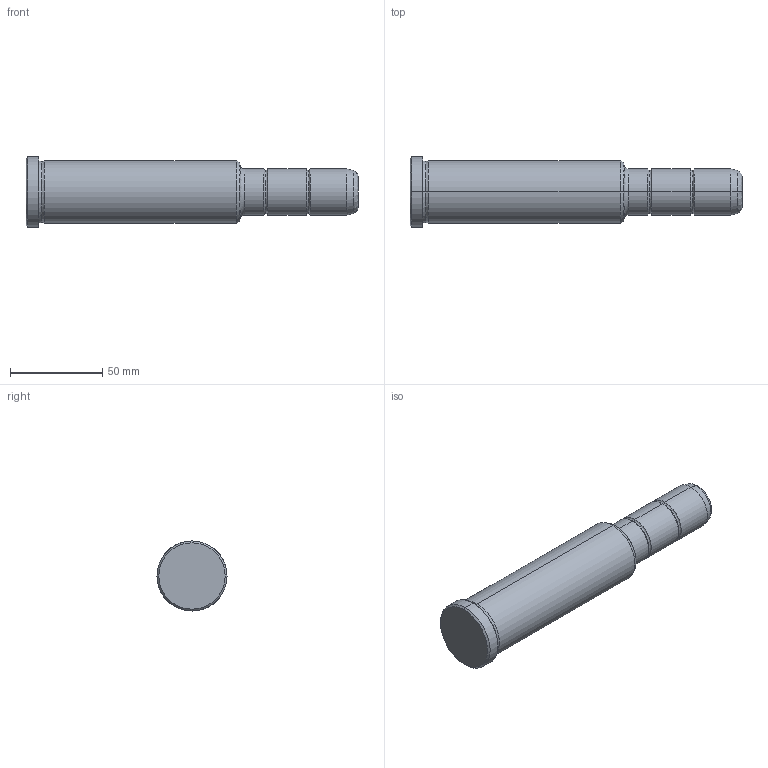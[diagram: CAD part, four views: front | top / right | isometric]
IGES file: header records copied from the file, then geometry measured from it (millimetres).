
Start section: START RECORD GO HERE.
Global section: file name: 351-25X116X180.igs; native system: DASSAULT SYSTEMES CATIA V5 R20 - www.3ds.com; preprocessor: CATIA Version 5 Release 20 ; author: Utente; organization: NB04-ASUS; date: 20210907.135452; units: millimetre
Bounding box: 180 x 38 x 38 mm (x, y, z)
Surface area: 19463.2 mm2 (no closed solid volume)
Topology: 0 solids, 0 shells, 36 faces, 204 edges, 204 vertices
Faces by surface type: revolution 32, plane 4
